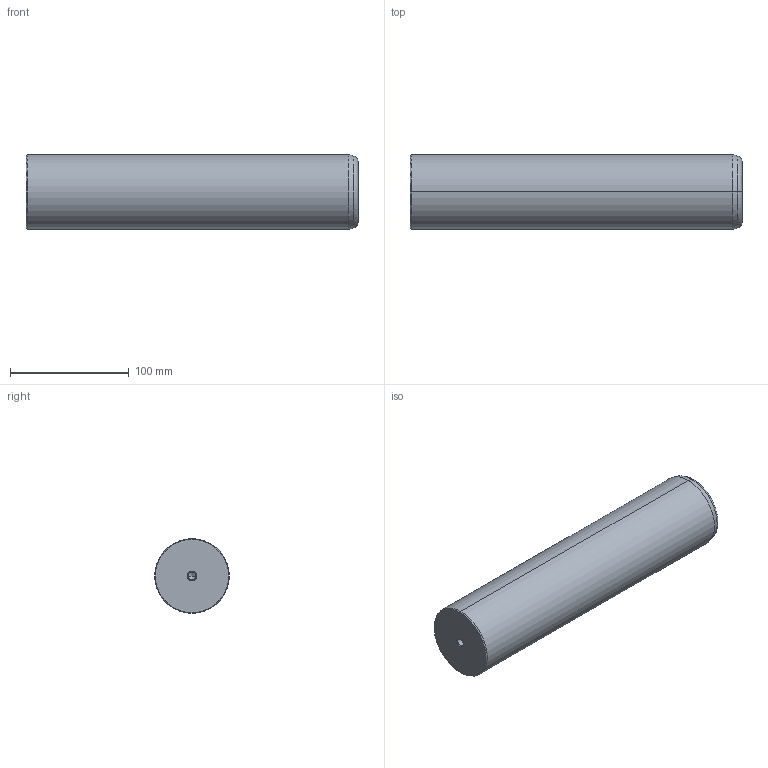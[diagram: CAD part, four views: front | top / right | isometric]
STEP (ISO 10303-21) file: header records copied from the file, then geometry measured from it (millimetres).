
FILE_DESCRIPTION(('CATIA V5 STEP Exchange'),'2;1');
FILE_NAME('C:\Users\Utente\Desktop\IO LAVORO\3D X SITO CF\X SITO\720\720-63x280.stp','2020-12-30T21:29:09+00:00',('none'),('none'),'CATIA Version 5 Release 20 GA (IN-10)','CATIA V5 STEP AP203','none');
FILE_SCHEMA(('CONFIG_CONTROL_DESIGN'));
Length unit declared in the file: millimetre
Products named in the file (1): 720-63x280
Bounding box: 280 x 63 x 63 mm (x, y, z)
Volume: 868883.6 mm3; surface area: 61940.3 mm2
Topology: 1 solids, 1 shells, 22 faces, 56 edges, 34 vertices
Faces by surface type: cone 12, cylinder 6, plane 2, torus 2
Entity records: 755 total; most frequent: CARTESIAN_POINT 216, ORIENTED_EDGE 104, DIRECTION 89, EDGE_CURVE 52, AXIS2_PLACEMENT_3D 50, VERTEX_POINT 34, CIRCLE 27, EDGE_LOOP 24
